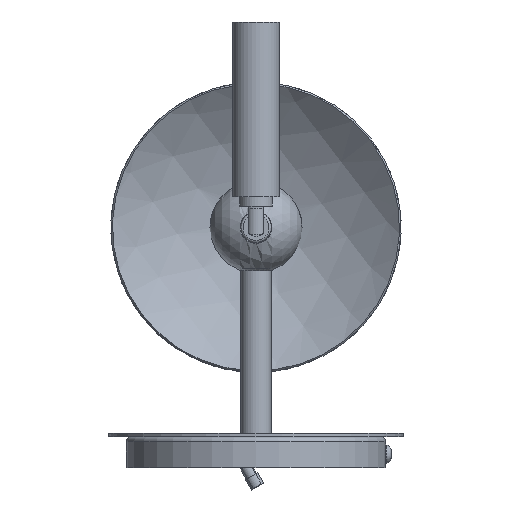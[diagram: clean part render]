
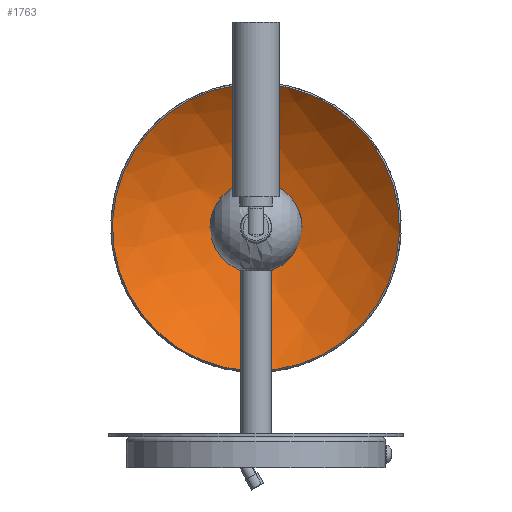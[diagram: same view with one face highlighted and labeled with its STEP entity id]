
A CAD part, front view. The second image highlights one B-rep face of the part: STEP entity #1763.
In plain terms, the highlighted spherical face has radius 90 mm.
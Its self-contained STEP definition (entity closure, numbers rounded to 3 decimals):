
#41=SPHERICAL_SURFACE('',#2018,90.);
#67=FACE_BOUND('',#365,.T.);
#235=FACE_OUTER_BOUND('',#364,.T.);
#364=EDGE_LOOP('',(#1514));
#365=EDGE_LOOP('',(#1515));
#492=CIRCLE('',#2012,60.832);
#495=CIRCLE('',#2017,14.5);
#825=VERTEX_POINT('',#3391);
#828=VERTEX_POINT('',#3400);
#1053=EDGE_CURVE('',#825,#825,#492,.T.);
#1057=EDGE_CURVE('',#828,#828,#495,.T.);
#1514=ORIENTED_EDGE('',*,*,#1053,.F.);
#1515=ORIENTED_EDGE('',*,*,#1057,.T.);
#1763=ADVANCED_FACE('',(#235,#67),#41,.F.);
#2012=AXIS2_PLACEMENT_3D('',#3393,#2559,#2560);
#2017=AXIS2_PLACEMENT_3D('',#3402,#2570,#2571);
#2018=AXIS2_PLACEMENT_3D('',#3403,#2572,#2573);
#2559=DIRECTION('center_axis',(0.,1.,0.));
#2560=DIRECTION('ref_axis',(-0.609,0.,0.793));
#2570=DIRECTION('center_axis',(0.,1.,0.));
#2571=DIRECTION('ref_axis',(-0.609,0.,0.793));
#2572=DIRECTION('center_axis',(-0.793,0.,
-0.609));
#2573=DIRECTION('ref_axis',(-0.609,0.,0.793));
#3391=CARTESIAN_POINT('',(-37.027,346.547,137.061));
#3393=CARTESIAN_POINT('Origin',(0.,346.547,
88.797));
#3400=CARTESIAN_POINT('',(-8.826,369.043,100.301));
#3402=CARTESIAN_POINT('Origin',(0.,369.043,
88.797));
#3403=CARTESIAN_POINT('Origin',(0.,280.218,
88.797));
